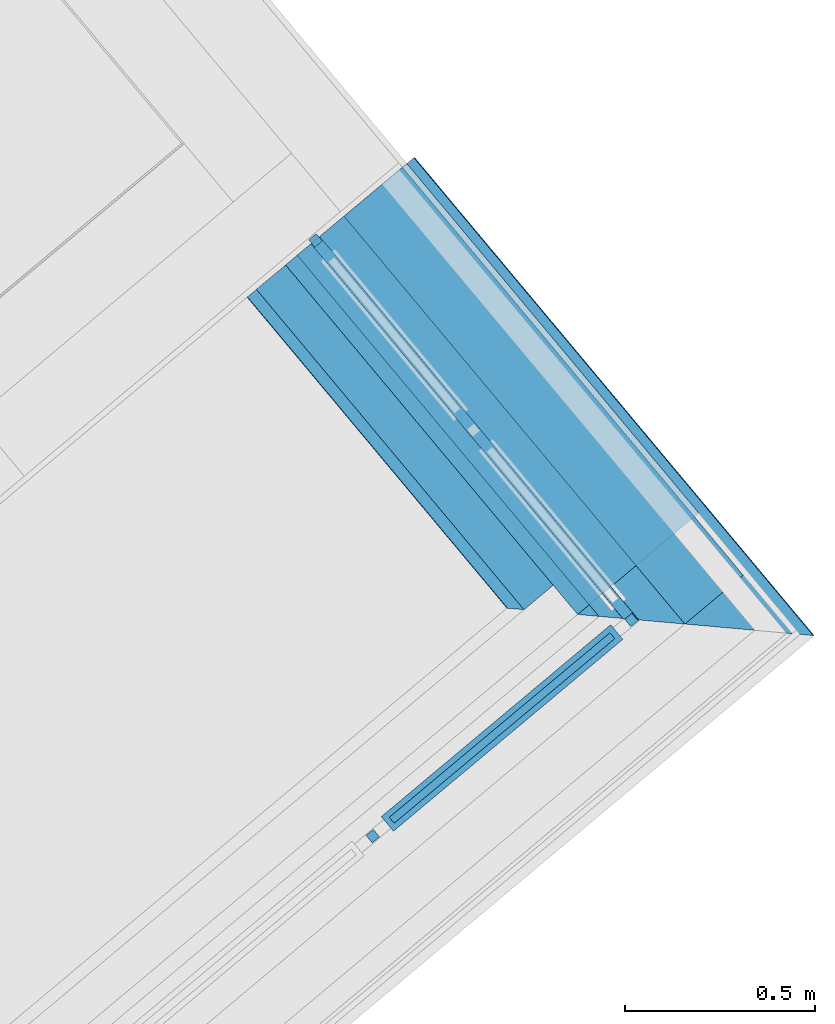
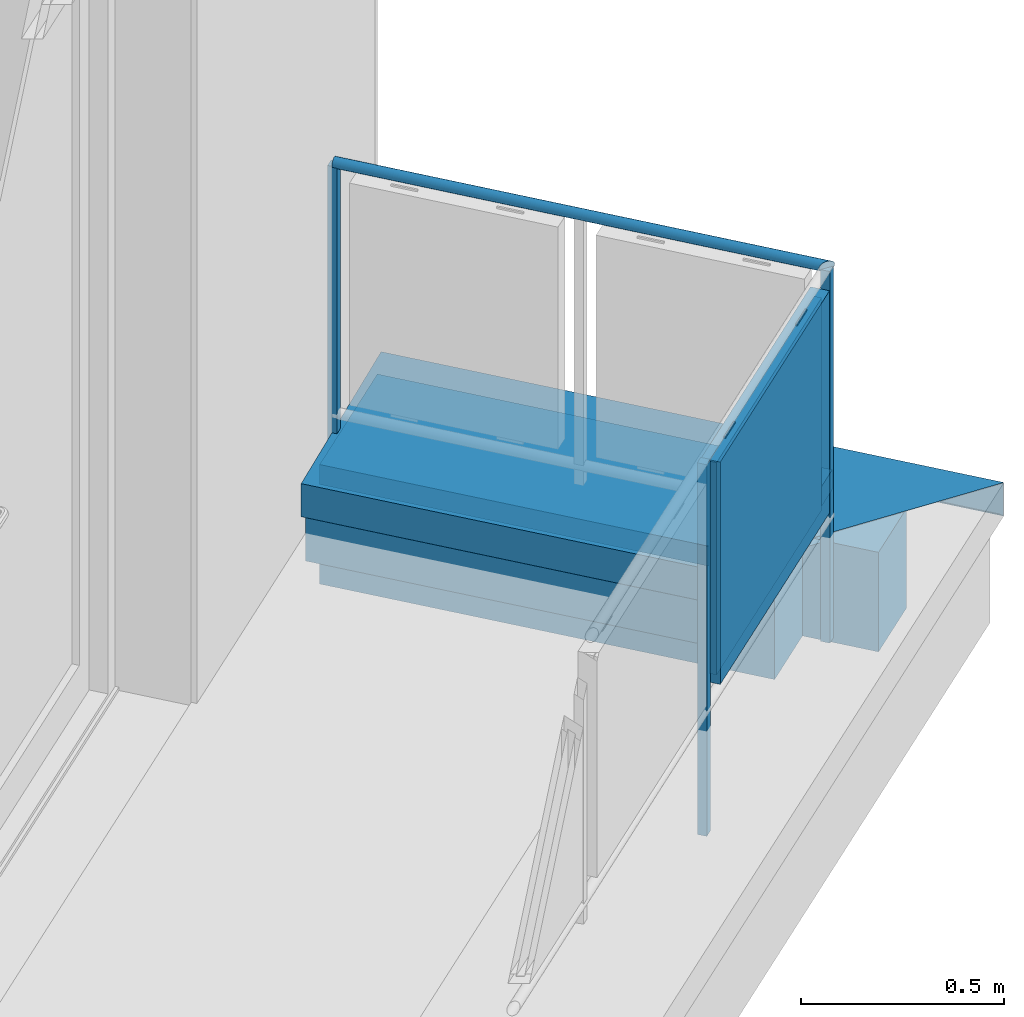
# One storey, part 37 of 50: 13 building element parts, 2 elements without a shape of their own.
"""IFC4 building model written with IfcOpenShell, lengths in metres."""

from ifc_helpers import new_model, entity, si_unit, converted_unit, derived_unit, direction, frame, origin_with_axes, place, context, subcontext, project, spatial, polygons, material, type_object, element, aggregate, save


model = new_model("IFC4")

# Units and contexts
model_context = context("Model", 3, precision=1e-05, world=origin_with_axes(), true_north=direction((0.0, 1.0)))
body_context = subcontext(model_context, "Body", "Model", "MODEL_VIEW")
ifc_project = project(units=[si_unit("LENGTHUNIT", "METRE"), si_unit("AREAUNIT", "SQUARE_METRE"), si_unit("VOLUMEUNIT", "CUBIC_METRE"), converted_unit("PLANEANGLEUNIT", "DEGREE", entity("IfcPlaneAngleMeasure", 0.0174532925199), si_unit("PLANEANGLEUNIT", "RADIAN"), dimensions=[0, 0, 0, 0, 0, 0, 0]), converted_unit("TIMEUNIT", "Year", entity("IfcTimeMeasure", 31556926.0), si_unit("TIMEUNIT", "SECOND"), dimensions=[0, 0, 1, 0, 0, 0, 0]), si_unit("MASSUNIT", "GRAM", prefix="KILO"), si_unit("THERMODYNAMICTEMPERATUREUNIT", "DEGREE_CELSIUS"), si_unit("LUMINOUSINTENSITYUNIT", "LUMEN"), si_unit("ENERGYUNIT", "JOULE", prefix="MEGA"), derived_unit("THERMALCONDUCTANCEUNIT", [(si_unit("POWERUNIT", "WATT"), 1), (si_unit("LENGTHUNIT", "METRE"), -1), (si_unit("THERMODYNAMICTEMPERATUREUNIT", "KELVIN"), -1)]), derived_unit("SPECIFICHEATCAPACITYUNIT", [(si_unit("ENERGYUNIT", "JOULE"), 1), (si_unit("MASSUNIT", "GRAM", prefix="KILO"), -1), (si_unit("THERMODYNAMICTEMPERATUREUNIT", "KELVIN"), -1)]), derived_unit("MASSDENSITYUNIT", [(si_unit("MASSUNIT", "GRAM", prefix="KILO"), 1), (si_unit("VOLUMEUNIT", "CUBIC_METRE"), -1)])], contexts=[model_context])

# Site, building, storey
site_placement = place(None, frame((-0.00153261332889, -0.00661245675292, 0.0), z_axis=(0.0, 0.0, 1.0), x_axis=(1.0, 0.0, 0.0)))
site = spatial("IfcSite", under=ifc_project, at=site_placement, Name="Gelände", CompositionType="ELEMENT")
building_placement = place(site_placement, origin_with_axes())
building = spatial("IfcBuilding", under=site, at=building_placement, Name="Gebäude", CompositionType="ELEMENT")
storey_placement = place(building_placement, frame((0.0, 0.0, 8.66), z_axis=(0.0, 0.0, 1.0), x_axis=(1.0, 0.0, 0.0)))
storey = spatial("IfcBuildingStorey", under=building, at=storey_placement, Name="DG2", CompositionType="ELEMENT", Elevation=8.66)

# Wall, building element parts
wall_type = type_object("IfcWallType", Name="Bauteil - Attika Terrasse 1.DG 574 x 410", PredefinedType="NOTDEFINED")
wall_placement = place(storey_placement, frame((13.0950046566, 20.3058232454, -0.2), z_axis=(0.0, 0.0, 1.0), x_axis=(-0.641209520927, 0.767365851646, 0.0)))
wall = element("IfcWall", 1, at=wall_placement, inside=storey, type_object=wall_type, Name="Wand-005", PredefinedType="NOTDEFINED")
ifc_material_1 = material(Name="Stahl")
building_element_part_1_placement = place(wall_placement, origin_with_axes())
building_element_part_1 = element("IfcBuildingElementPart", 2, at=building_element_part_1_placement, material=ifc_material_1, Name="Stahl", PredefinedType="NOTDEFINED", context=body_context, shape_type="Tessellation", body=[
    polygons([(0.331835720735, 0.332051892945, 0.498822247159), (0.331835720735, 0.332051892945, 0.49100648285), (0.331836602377, 0.330698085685, 0.491006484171), (0.331836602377, 0.330698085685, 0.498822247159), (0.331835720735, 0.332051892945, 0.489652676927), (0.331835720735, 0.332051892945, 0.499999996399), (0.331835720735, 0.332051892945, 0.50905023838), (0.331835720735, 0.332051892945, 0.511361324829), (0.331835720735, 0.332051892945, 0.519224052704), (0.331835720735, 0.332051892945, 0.559999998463), (0.331835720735, 0.332051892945, 0.567947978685), (0.331835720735, 0.332051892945, 0.573880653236), (0.331835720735, 0.332051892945, 0.575979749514), (0.331835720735, 0.332051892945, 0.584015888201), (0.331835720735, 0.332051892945, 0.586106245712), (0.331835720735, 0.332051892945, 0.587938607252), (0.331835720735, 0.332051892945, 0.589243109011), (1.39632238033, 0.332051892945, 0.589243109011), (1.39632238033, 0.332051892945, 0.489652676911), (0.331836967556, 0.330137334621, 0.489652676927), (0.331837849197, 0.328783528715, 0.491006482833), (1.39632238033, 0.330698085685, 0.491006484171), (1.39632238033, 0.330698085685, 0.587937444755), (0.331836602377, 0.330698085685, 0.587937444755), (0.331836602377, 0.330698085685, 0.586106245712), (0.331836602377, 0.330698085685, 0.584015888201), (0.331836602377, 0.330698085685, 0.575979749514), (0.331836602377, 0.330698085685, 0.573880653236), (0.331836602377, 0.330698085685, 0.567947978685), (0.331836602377, 0.330698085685, 0.559999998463), (0.331836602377, 0.330698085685, 0.519224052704), (0.331836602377, 0.330698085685, 0.511361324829), (0.331836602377, 0.330698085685, 0.50905023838), (0.331836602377, 0.330698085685, 0.499999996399), (0.33183662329, 0.330665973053, 0.587938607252), (0.331860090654, 0.294630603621, 0.589243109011), (-0.201718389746, -0.201849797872, 0.608570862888), (-0.202598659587, -0.202730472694, 0.608602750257), (-0.241342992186, -0.241500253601, 0.610006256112), (1.39632238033, -0.241500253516, 0.610006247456), (1.39632238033, 0.331094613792, 0.488695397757), (1.39632238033, -0.241500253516, 0.510007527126), (1.39632238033, -0.240542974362, 0.509050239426), (1.39632238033, -0.231373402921, 0.518219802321), (1.39632238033, -0.232283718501, 0.519224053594), (1.39632238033, -0.240146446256, 0.51136132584), (1.39632238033, -0.240152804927, 0.608602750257), (1.39632238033, -0.239276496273, 0.608570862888), (1.39632238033, 0.32288233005, 0.498822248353), (1.39632238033, 0.321878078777, 0.497911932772), (0.330879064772, 0.331094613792, 0.488695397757), (0.323583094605, 0.32187807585, 0.497911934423), (0.330484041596, 0.328783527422, 0.49100648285), (0.330482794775, 0.33069808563, 0.49100648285), (-0.201694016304, -0.239276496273, 0.608570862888), (0.322672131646, 0.322882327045, 0.498822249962), (-0.202574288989, -0.240152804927, 0.608602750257), (-0.202573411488, -0.241500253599, 0.608602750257), (-0.239995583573, -0.241500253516, 0.608602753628), (-0.239995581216, -0.241500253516, 0.608570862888), (-0.239994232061, -0.241500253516, 0.587938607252), (-0.239994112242, -0.241500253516, 0.586106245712), (-0.239993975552, -0.241500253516, 0.584015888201), (-0.239993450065, -0.241500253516, 0.575979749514), (-0.239993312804, -0.241500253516, 0.573880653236), (-0.239992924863, -0.241500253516, 0.567947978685), (-0.23999240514, -0.241500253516, 0.560000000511), (-0.239989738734, -0.241500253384, 0.519224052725), (-0.239989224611, -0.241500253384, 0.511361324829), (-0.238074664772, -0.241500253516, 0.511361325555), (-0.239428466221, -0.241500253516, 0.510007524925), (-0.240386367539, -0.240542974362, 0.50905023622), (-0.238076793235, -0.238231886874, 0.511361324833), (-0.231222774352, -0.23137340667, 0.518219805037), (-0.232132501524, -0.23228372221, 0.519224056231), (-0.231221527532, -0.233287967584, 0.518219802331), (-0.23807554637, -0.24014644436, 0.511361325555), (-0.239990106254, -0.24014644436, 0.511361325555), (-0.239990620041, -0.240146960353, 0.519224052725), (-0.239993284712, -0.240149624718, 0.560000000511), (-0.239993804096, -0.240150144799, 0.567947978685), (-0.239994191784, -0.240150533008, 0.573880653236), (-0.239994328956, -0.240150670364, 0.575979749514), (-0.239994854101, -0.240151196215, 0.584015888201), (-0.239994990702, -0.240151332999, 0.586106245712), (-0.239995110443, -0.240151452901, 0.587938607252), (-0.239996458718, -0.240152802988, 0.608570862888), (-0.239996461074, -0.240152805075, 0.608602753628)], [[[1, 2, 3, 4]], [[5, 2, 1, 6, 7, 8, 9, 10, 11, 12, 13, 14, 15, 16, 17, 18, 19]], [[2, 5, 20, 21, 3]], [[22, 23, 24, 25, 26, 27, 28, 29, 30, 31, 32, 33, 34, 4, 3]], [[1, 4, 34, 6]], [[7, 6, 34, 33]], [[8, 7, 33, 32]], [[9, 8, 32, 31]], [[10, 9, 31, 30]], [[11, 10, 30, 29]], [[12, 11, 29, 28]], [[13, 12, 28, 27]], [[14, 13, 27, 26]], [[15, 14, 26, 25]], [[16, 15, 25, 24]], [[17, 16, 24, 35, 36]], [[18, 17, 37, 38, 39, 40]], [[41, 19, 18, 40, 42, 43, 44, 45, 46, 47, 48, 23, 22, 49, 50]], [[5, 19, 41, 51]], [[5, 51, 20]], [[41, 50, 52, 53, 21, 20, 51]], [[53, 54, 3, 21]], [[24, 23, 48, 55, 36, 35]], [[49, 22, 3, 54, 56]], [[37, 17, 36, 55]], [[38, 37, 55, 57]], [[38, 57, 58, 39]], [[42, 40, 39, 58, 59, 60, 61, 62, 63, 64, 65, 66, 67, 68, 69, 70, 71]], [[43, 42, 71, 72]], [[44, 43, 72, 73, 74]], [[45, 44, 74, 75]], [[46, 45, 75, 76, 77]], [[47, 46, 77, 78, 79, 80, 81, 82, 83, 84, 85, 86, 87, 88, 57]], [[48, 47, 57, 55]], [[50, 49, 56, 52]], [[56, 54, 53, 52]], [[58, 57, 88, 59]], [[87, 60, 59, 88]], [[86, 61, 60, 87]], [[85, 62, 61, 86]], [[84, 63, 62, 85]], [[84, 83, 64, 63]], [[83, 82, 65, 64]], [[82, 81, 66, 65]], [[81, 80, 67, 66]], [[80, 79, 68, 67]], [[79, 78, 69, 68]], [[78, 77, 70, 69]], [[77, 73, 72, 71, 70]], [[73, 77, 76, 74]], [[75, 74, 76]]], closed=True),
])
ifc_material_2 = material(Name="Holzwerkstoff")
building_element_part_2_placement = place(wall_placement, origin_with_axes())
building_element_part_2 = element("IfcBuildingElementPart", 3, at=building_element_part_2_placement, material=ifc_material_2, Name="Holzwerkstoff", PredefinedType="NOTDEFINED", context=body_context, shape_type="Tessellation", body=[
    polygons([(1.39632238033, 0.329999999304, 0.567947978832), (1.39632238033, 0.160110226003, 0.573880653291), (0.330102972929, 0.160110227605, 0.573880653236), (0.329785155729, 0.329999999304, 0.567947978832), (1.39632238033, 0.330698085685, 0.587938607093), (1.39632238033, -0.239276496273, 0.608570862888), (1.39632238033, -0.239999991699, 0.587852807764), (1.39632238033, -0.189984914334, 0.586106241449), (1.39632238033, -0.130124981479, 0.584015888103), (1.39632238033, 0.100000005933, 0.575979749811), (0.330215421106, 0.100000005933, 0.575979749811), (0.329992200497, 0.330207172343, 0.573880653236), (0.330065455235, 0.330280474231, 0.57597974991), (0.33034590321, 0.330561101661, 0.584015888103), (0.330418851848, 0.330634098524, 0.586106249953), (0.330482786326, 0.330698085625, 0.587938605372), (-0.239120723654, -0.239276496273, 0.608570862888), (0.330854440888, -0.23999699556, 0.587938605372), (0.330851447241, -0.239999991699, 0.587852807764), (0.330757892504, -0.189984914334, 0.586106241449), (0.330645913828, -0.130124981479, 0.584015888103)], [[[1, 2, 3, 4]], [[1, 5, 6, 7, 8, 9, 10, 2]], [[2, 10, 11, 3]], [[12, 4, 3]], [[5, 1, 4, 12, 13, 14, 15, 16]], [[5, 16, 17, 6]], [[7, 6, 17, 18, 19]], [[8, 7, 19, 20]], [[9, 8, 20, 21]], [[10, 9, 21, 11]], [[13, 12, 3, 11]], [[14, 13, 11, 21]], [[15, 14, 21, 20]], [[16, 15, 20, 19, 18]], [[17, 16, 18]]], closed=True),
])
ifc_material_3 = material(Name="EPS 1")
building_element_part_3_placement = place(wall_placement, origin_with_axes())
building_element_part_3 = element("IfcBuildingElementPart", 4, at=building_element_part_3_placement, material=ifc_material_3, Name="EPS 1", PredefinedType="NOTDEFINED", context=body_context, shape_type="Tessellation", body=[
    polygons([(0.299804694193, 0.3, 0.560000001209), (0.299869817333, 0.2, 0.560000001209), (1.39632238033, 0.2, 0.560000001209), (1.39632238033, 0.3, 0.560000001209), (0.299869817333, 0.2, 0.519224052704), (0.299804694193, 0.3, 0.519224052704), (0.299869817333, 0.2, 0.511361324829), (0.299869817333, 0.2, 0.50905023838), (0.299869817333, 0.2, 0.499999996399), (0.299869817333, 0.2, 0.498822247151), (0.299869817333, 0.2, 0.49100648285), (0.299869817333, 0.2, 0.488695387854), (0.299869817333, 0.2, 0.335), (1.39632238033, 0.2, 0.335), (1.39632238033, 0.3, 0.335), (0.299804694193, 0.3, 0.335), (0.299804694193, 0.3, 0.488695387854), (0.299804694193, 0.3, 0.49100648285), (0.299804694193, 0.3, 0.498822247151), (0.299804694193, 0.3, 0.499999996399), (0.299804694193, 0.3, 0.50905023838), (0.299804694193, 0.3, 0.511361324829)], [[[1, 2, 3, 4]], [[5, 2, 1, 6]], [[2, 5, 7, 8, 9, 10, 11, 12, 13, 14, 3]], [[3, 14, 15, 4]], [[6, 1, 4, 15, 16, 17, 18, 19, 20, 21, 22]], [[5, 6, 22, 7]], [[7, 22, 21, 8]], [[20, 9, 8, 21]], [[19, 10, 9, 20]], [[10, 19, 18, 11]], [[11, 18, 17, 12]], [[12, 17, 16, 13]], [[13, 16, 15, 14]]], closed=True),
])
ifc_material_4 = material(Name="Vollholz")
building_element_part_4_placement = place(wall_placement, origin_with_axes())
building_element_part_4 = element("IfcBuildingElementPart", 5, at=building_element_part_4_placement, material=ifc_material_4, Name="Vollholz", PredefinedType="NOTDEFINED", context=body_context, shape_type="Tessellation", body=[
    polygons([(0.159958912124, 0.160063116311, 0.567947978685), (0.159895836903, 0.16, 0.560000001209), (0.159934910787, 0.1, 0.560000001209), (0.159998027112, 0.1, 0.567947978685), (0.160005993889, 0.160110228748, 0.573880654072), (1.39632238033, 0.160110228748, 0.573880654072), (1.39632238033, 0.16, 0.560000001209), (1.39632238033, 0.1, 0.560000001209), (1.39632238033, 0.1, 0.575979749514), (0.0999348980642, 0.1, 0.575979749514), (0.160045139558, 0.1, 0.573880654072)], [[[1, 2, 3, 4]], [[5, 6, 7, 2, 1]], [[7, 8, 3, 2]], [[8, 9, 10, 11, 4, 3]], [[5, 1, 4, 11]], [[6, 5, 10, 9]], [[7, 6, 9, 8]], [[5, 11, 10]]], closed=True),
])
ifc_material_5 = material(Name="Stahlbeton")
building_element_part_5_placement = place(wall_placement, origin_with_axes())
building_element_part_5 = element("IfcBuildingElementPart", 6, at=building_element_part_5_placement, material=ifc_material_5, Name="Stahlbeton", PredefinedType="NOTDEFINED", context=body_context, shape_type="Tessellation", body=[
    polygons([(0.199869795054, 0.199999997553, 0.500000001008), (0.200000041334, 4.57443860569e-10, 0.500000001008), (1.39632238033, 1.8283543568e-09, 0.500000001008), (1.39632238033, 0.199999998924, 0.500000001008), (0.200000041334, 0.0, 0.498822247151), (0.199869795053, 0.199999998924, 0.498822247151), (0.200000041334, 0.0, 0.49100648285), (0.200000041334, 0.0, 0.488695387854), (0.200000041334, 0.0, 0.335), (0.200000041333, 1.1539533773e-09, 0.2), (1.39632238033, 1.8283543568e-09, 0.2), (1.39632238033, 0.199999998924, 0.2), (1.39632238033, 0.199999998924, 0.335000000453), (0.199869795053, 0.199999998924, 0.335), (0.199869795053, 0.199999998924, 0.488695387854), (0.199869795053, 0.199999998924, 0.49100648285), (0.199869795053, 0.199999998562, 0.2)], [[[1, 2, 3, 4]], [[5, 2, 1, 6]], [[2, 5, 7, 8, 9, 10, 11, 3]], [[11, 12, 13, 4, 3]], [[6, 1, 4, 13, 14, 15, 16]], [[5, 6, 16, 7]], [[16, 15, 8, 7]], [[14, 9, 8, 15]], [[10, 9, 14, 17]], [[10, 17, 12, 11]], [[17, 14, 13, 12]]], closed=True),
])
building_element_part_6_placement = place(wall_placement, origin_with_axes())
building_element_part_6 = element("IfcBuildingElementPart", 7, at=building_element_part_6_placement, material=ifc_material_3, Name="EPS 1", PredefinedType="NOTDEFINED", context=body_context, shape_type="Tessellation", body=[
    polygons([(-2.38710384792e-10, -1.8400143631e-09, 0.499999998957), (0.000130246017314, -0.199999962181, 0.499999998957), (1.39632238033, -0.19999996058, 0.499999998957), (1.39632238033, -2.39911202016e-10, 0.499999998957), (0.000130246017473, -0.199999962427, 0.498822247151), (-2.39163355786e-10, -1.14826192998e-09, 0.498822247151), (0.000130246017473, -0.199999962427, 0.49100648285), (0.000130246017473, -0.199999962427, 0.488695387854), (0.000130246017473, -0.199999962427, 0.335), (0.00013024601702, -0.199999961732, 0.2), (1.39632238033, -0.19999996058, 0.2), (1.39632238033, -2.39911202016e-10, 0.2), (-2.39243291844e-10, -1.02706465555e-09, 0.2), (-2.39163355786e-10, -1.14826192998e-09, 0.335), (-2.39163355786e-10, -1.14826192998e-09, 0.488695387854), (-2.39163355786e-10, -1.14826192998e-09, 0.49100648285)], [[[1, 2, 3, 4]], [[5, 2, 1, 6]], [[2, 5, 7, 8, 9, 10, 11, 3]], [[11, 12, 4, 3]], [[6, 1, 4, 12, 13, 14, 15, 16]], [[5, 6, 16, 7]], [[7, 16, 15, 8]], [[8, 15, 14, 9]], [[9, 14, 13, 10]], [[10, 13, 12, 11]]], closed=True),
])
ifc_material_6 = material(Name="Brettschichtholz")
building_element_part_7_placement = place(wall_placement, origin_with_axes())
building_element_part_7 = element("IfcBuildingElementPart", 8, at=building_element_part_7_placement, material=ifc_material_6, Name="Brettschichtholz", PredefinedType="NOTDEFINED", context=body_context, shape_type="Tessellation", body=[
    polygons([(0.200123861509, -0.190124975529, 0.559999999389), (0.200140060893, -0.214999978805, 0.559999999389), (1.39632238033, -0.214999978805, 0.559999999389), (1.39632238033, -0.190124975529, 0.559999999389), (0.200140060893, -0.214999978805, 0.519224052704), (0.200084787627, -0.130124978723, 0.559999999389), (0.199934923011, 0.100000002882, 0.559999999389), (0.199895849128, 0.159999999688, 0.559999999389), (0.199869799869, 0.200000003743, 0.559999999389), (0.199869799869, 0.200000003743, 0.519224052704), (0.200140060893, -0.214999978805, 0.511361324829), (0.200140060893, -0.214999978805, 0.50905023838), (0.200140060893, -0.214999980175, 0.500000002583), (1.39632238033, -0.214999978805, 0.499999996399), (1.39632238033, 0.200000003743, 0.500000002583), (1.39632238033, 0.200000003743, 0.559999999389), (1.39632238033, 0.159999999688, 0.559999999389), (1.39632238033, 0.100000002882, 0.559999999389), (1.39632238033, -0.130124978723, 0.559999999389), (0.19986979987, 0.200000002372, 0.500000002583), (0.199869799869, 0.200000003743, 0.50905023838), (0.199869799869, 0.200000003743, 0.511361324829)], [[[1, 2, 3, 4]], [[5, 2, 1, 6, 7, 8, 9, 10]], [[2, 5, 11, 12, 13, 14, 3]], [[3, 14, 15, 16, 17, 18, 19, 4]], [[6, 1, 4, 19]], [[7, 6, 19, 18]], [[8, 7, 18, 17]], [[9, 8, 17, 16]], [[10, 9, 16, 15, 20, 21, 22]], [[5, 10, 22, 11]], [[22, 21, 12, 11]], [[12, 21, 20, 13]], [[20, 15, 14, 13]]], closed=True),
])
aggregate(wall, [building_element_part_1, building_element_part_2, building_element_part_3, building_element_part_4, building_element_part_5, building_element_part_6, building_element_part_7])

# Space
space_placement = place(storey_placement, frame((8.90864671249, 17.2360299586, 0.22), z_axis=(0.0, 0.0, 1.0), x_axis=(0.766948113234, 0.641709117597, 0.0)))
space = spatial("IfcSpace", under=storey, at=space_placement, CompositionType="ELEMENT", PredefinedType="NOTDEFINED")

# Railing, building element parts
railing_type = type_object("IfcRailingType", Name="Geländerart", PredefinedType="NOTDEFINED")
railing_placement = place(space_placement, frame((-0.182063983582, 1.04564583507, 0.16), z_axis=(0.0, 0.0, 1.0), x_axis=(0.766948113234, -0.641709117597, 0.0)))
railing = element("IfcRailing", 9, at=railing_placement, inside=space, type_object=railing_type, Name="Geländer - 001", PredefinedType="NOTDEFINED")
ifc_material_7 = material(Name="Aluminium")
building_element_part_8_placement = place(railing_placement, origin_with_axes())
building_element_part_8 = element("IfcBuildingElementPart", 10, at=building_element_part_8_placement, material=ifc_material_7, Name="Aluminium", PredefinedType="NOTDEFINED", context=body_context, shape_type="Tessellation", body=[
    polygons([(4.87392007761, 2.39415632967, -0.3), (4.85787906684, 2.41333146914, -0.3), (4.85787906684, 2.41333146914, 0.82), (4.87392007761, 2.39415632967, 0.82), (4.85474493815, 2.3781153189, -0.3), (4.83870392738, 2.39729045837, -0.3), (4.83870392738, 2.39729045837, 0.82), (4.85474493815, 2.3781153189, 0.82)], [[[1, 2, 3, 4]], [[1, 5, 6, 2]], [[2, 6, 7, 3]], [[4, 3, 7, 8]], [[5, 1, 4, 8]], [[6, 5, 8, 7]]], closed=True),
])
building_element_part_9_placement = place(railing_placement, origin_with_axes())
building_element_part_9 = element("IfcBuildingElementPart", 11, at=building_element_part_9_placement, material=ifc_material_7, Name="Aluminium", PredefinedType="NOTDEFINED", context=body_context, shape_type="Tessellation", body=[
    polygons([(4.02846962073, 3.40999577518, -0.3), (4.00925363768, 3.39400371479, -0.3), (4.00925363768, 3.39400371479, 0.82), (4.02846962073, 3.40999577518, 0.82), (4.04446168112, 3.39077979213, -0.3), (4.02524569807, 3.37478773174, -0.3), (4.02524569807, 3.37478773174, 0.82), (4.04446168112, 3.39077979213, 0.82)], [[[1, 2, 3, 4]], [[1, 5, 6, 2]], [[2, 6, 7, 3]], [[4, 3, 7, 8]], [[5, 1, 4, 8]], [[6, 5, 8, 7]]], closed=True),
])
building_element_part_10_placement = place(railing_placement, origin_with_axes())
building_element_part_10 = element("IfcBuildingElementPart", 12, at=building_element_part_10_placement, material=ifc_material_7, Name="Aluminium", PredefinedType="NOTDEFINED", context=body_context, shape_type="Tessellation", body=[
    polygons([(4.19487765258, 1.82610169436, -0.3), (4.17883664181, 1.84527683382, -0.3), (4.17883664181, 1.84527683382, 0.82), (4.19487765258, 1.82610169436, 0.82), (4.17570251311, 1.81006068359, -0.3), (4.15966150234, 1.82923582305, -0.3), (4.15966150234, 1.82923582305, 0.82), (4.17570251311, 1.81006068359, 0.82)], [[[1, 2, 3, 4]], [[1, 5, 6, 2]], [[2, 6, 7, 3]], [[4, 3, 7, 8]], [[5, 1, 4, 8]], [[6, 5, 8, 7]]], closed=True),
])
ifc_material_8 = material(Name="Profilit")
building_element_part_11_placement = place(railing_placement, origin_with_axes())
building_element_part_11 = element("IfcBuildingElementPart", 13, at=building_element_part_11_placement, material=ifc_material_8, Name="Profilit", PredefinedType="NOTDEFINED", context=body_context, shape_type="Tessellation", body=[
    polygons([(4.80004023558, 2.3616868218, 0.135), (4.22070853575, 1.8770454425, 0.135), (4.22070853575, 1.8770454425, 0.775), (4.80004023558, 2.3616868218, 0.775), (4.23354134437, 1.86170533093, 0.135), (4.8128730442, 2.34634671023, 0.135), (4.23354134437, 1.86170533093, 0.775), (4.8128730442, 2.34634671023, 0.775)], [[[1, 2, 3, 4]], [[5, 2, 1, 6]], [[7, 3, 2, 5]], [[4, 3, 7, 8]], [[1, 4, 8, 6]], [[7, 5, 6, 8]]], closed=True),
])
building_element_part_12_placement = place(railing_placement, origin_with_axes())
building_element_part_12 = element("IfcBuildingElementPart", 14, at=building_element_part_12_placement, material=ifc_material_7, Name="Aluminium", PredefinedType="NOTDEFINED", context=body_context, shape_type="Tessellation", body=[
    polygons([(4.29071631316, 1.92583233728, 0.12), (4.34440670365, 1.97074716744, 0.12), (4.34440670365, 1.97074716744, 0.095), (4.29071631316, 1.92583233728, 0.095), (4.29392451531, 1.92199730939, 0.12), (4.34761490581, 1.96691213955, 0.12), (4.34761490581, 1.96691213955, 0.095), (4.29392451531, 1.92199730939, 0.095)], [[[1, 2, 3, 4]], [[5, 6, 2, 1]], [[2, 6, 7, 3]], [[4, 3, 7, 8]], [[1, 4, 8, 5]], [[8, 7, 6, 5]]], closed=True),
    polygons([(4.68596667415, 2.25648001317, 0.12), (4.73965706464, 2.30139484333, 0.12), (4.73965706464, 2.30139484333, 0.095), (4.68596667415, 2.25648001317, 0.095), (4.6891748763, 2.25264498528, 0.12), (4.7428652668, 2.29755981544, 0.12), (4.7428652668, 2.29755981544, 0.095), (4.6891748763, 2.25264498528, 0.095)], [[[1, 2, 3, 4]], [[5, 6, 2, 1]], [[2, 6, 7, 3]], [[4, 3, 7, 8]], [[1, 4, 8, 5]], [[8, 7, 6, 5]]], closed=True),
    polygons([(4.73965706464, 2.30139484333, 0.79), (4.68596667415, 2.25648001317, 0.79), (4.68596667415, 2.25648001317, 0.795), (4.73965706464, 2.30139484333, 0.795), (4.7428652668, 2.29755981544, 0.79), (4.6891748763, 2.25264498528, 0.79), (4.6891748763, 2.25264498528, 0.795), (4.7428652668, 2.29755981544, 0.795)], [[[1, 2, 3, 4]], [[5, 6, 2, 1]], [[2, 6, 7, 3]], [[4, 3, 7, 8]], [[1, 4, 8, 5]], [[8, 7, 6, 5]]], closed=True),
    polygons([(4.34440670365, 1.97074716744, 0.79), (4.29071631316, 1.92583233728, 0.79), (4.29071631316, 1.92583233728, 0.795), (4.34440670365, 1.97074716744, 0.795), (4.34761490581, 1.96691213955, 0.79), (4.29392451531, 1.92199730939, 0.79), (4.29392451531, 1.92199730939, 0.795), (4.34761490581, 1.96691213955, 0.795)], [[[1, 2, 3, 4]], [[5, 6, 2, 1]], [[2, 6, 7, 3]], [[4, 3, 7, 8]], [[1, 4, 8, 5]], [[8, 7, 6, 5]]], closed=True),
    polygons([(4.23166086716, 1.84057564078, 0.12), (4.19957884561, 1.87892591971, 0.12), (4.8019207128, 2.38281651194, 0.12), (4.83400273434, 2.34446623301, 0.12), (4.24700097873, 1.8534084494, 0.14), (4.23737637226, 1.86491353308, 0.14), (4.23354134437, 1.86170533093, 0.135), (4.22070853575, 1.8770454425, 0.135), (4.22454356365, 1.88025364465, 0.14), (4.21491895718, 1.89175872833, 0.14), (4.78658060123, 2.36998370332, 0.14), (4.78658060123, 2.36998370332, 0.77), (4.21491895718, 1.89175872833, 0.77), (4.21491895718, 1.89175872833, 0.14), (4.19957884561, 1.87892591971, 0.12), (4.19957884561, 1.87892591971, 0.79), (4.8019207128, 2.38281651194, 0.79), (4.83400273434, 2.34446623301, 0.79), (4.23166086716, 1.84057564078, 0.79), (4.23166086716, 1.84057564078, 0.12), (4.24700097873, 1.8534084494, 0.14), (4.24700097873, 1.8534084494, 0.77), (4.81866262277, 2.3316334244, 0.77), (4.81866262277, 2.3316334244, 0.14), (4.80903801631, 2.34313850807, 0.14), (4.80903801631, 2.34313850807, 0.77), (4.23737637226, 1.86491353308, 0.77), (4.23737637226, 1.86491353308, 0.14), (4.23354134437, 1.86170533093, 0.135), (4.23354134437, 1.86170533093, 0.775), (4.8128730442, 2.34634671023, 0.775), (4.8128730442, 2.34634671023, 0.135), (4.80004023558, 2.3616868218, 0.135), (4.80004023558, 2.3616868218, 0.775), (4.22070853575, 1.8770454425, 0.775), (4.22070853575, 1.8770454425, 0.135), (4.22454356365, 1.88025364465, 0.14), (4.22454356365, 1.88025364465, 0.77), (4.79620520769, 2.35847861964, 0.77), (4.79620520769, 2.35847861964, 0.14)], [[[1, 2, 3, 4]], [[1, 5, 6, 7, 8, 9, 10, 2]], [[2, 10, 11, 12, 13, 14, 15, 16, 17, 3]], [[4, 3, 17, 18]], [[5, 1, 4, 18, 19, 20, 21, 22, 23, 24]], [[6, 5, 24, 25]], [[7, 6, 25, 26, 27, 28, 29, 30, 31, 32]], [[8, 7, 32, 33]], [[9, 8, 33, 34, 35, 36, 37, 38, 39, 40]], [[10, 9, 40, 11]], [[11, 40, 39, 12]], [[12, 39, 38, 13]], [[13, 38, 37, 14]], [[20, 15, 14, 37, 36, 29, 28, 21]], [[19, 16, 15, 20]], [[18, 17, 16, 19]], [[27, 22, 21, 28]], [[26, 23, 22, 27]], [[25, 24, 23, 26]], [[35, 30, 29, 36]], [[34, 31, 30, 35]], [[33, 32, 31, 34]]], closed=True),
])
building_element_part_13_placement = place(railing_placement, origin_with_axes())
building_element_part_13 = element("IfcBuildingElementPart", 15, at=building_element_part_13_placement, material=ifc_material_7, Name="Aluminium", PredefinedType="NOTDEFINED", context=body_context, shape_type="Tessellation", body=[
    polygons([(4.83521161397, 2.39762838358, 0.825), (4.83553217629, 2.39759944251, 0.827604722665), (4.01550322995, 3.38294229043, 0.827604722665), (4.01532806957, 3.38279651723, 0.825), (4.83553217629, 2.39759944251, 0.822395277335), (4.83648412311, 2.39751349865, 0.81986969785), (4.83803853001, 2.39737316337, 0.8175), (4.84014816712, 2.39718270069, 0.815358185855), (4.84274893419, 2.3969478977, 0.813509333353), (4.84576180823, 2.3966758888, 0.812009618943), (4.84909524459, 2.39637493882, 0.810904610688), (4.85264795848, 2.39605419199, 0.810227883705), (4.85631200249, 2.39572339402, 0.81), (4.85997604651, 2.39539259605, 0.810227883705), (4.8635287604, 2.39507184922, 0.810904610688), (4.86686219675, 2.39477089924, 0.812009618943), (4.86987507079, 2.39449889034, 0.813509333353), (4.87247583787, 2.39426408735, 0.815358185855), (4.87458547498, 2.39407362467, 0.8175), (4.87613988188, 2.39393328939, 0.81986969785), (4.8770918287, 2.39384734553, 0.822395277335), (4.87741239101, 2.39381840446, 0.825), (4.8770918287, 2.39384734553, 0.827604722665), (4.87613988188, 2.39393328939, 0.83013030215), (4.87458547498, 2.39407362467, 0.8325), (4.87247583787, 2.39426408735, 0.834641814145), (4.86987507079, 2.39449889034, 0.836490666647), (4.86686219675, 2.39477089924, 0.837990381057), (4.8635287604, 2.39507184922, 0.839095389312), (4.85997604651, 2.39539259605, 0.839772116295), (4.85631200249, 2.39572339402, 0.84), (4.85264795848, 2.39605419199, 0.839772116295), (4.84909524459, 2.39637493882, 0.839095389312), (4.84576180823, 2.3966758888, 0.837990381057), (4.84274893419, 2.3969478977, 0.836490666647), (4.84014816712, 2.39718270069, 0.834641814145), (4.83803853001, 2.39737316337, 0.8325), (4.83648412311, 2.39751349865, 0.83013030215), (4.01602338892, 3.38337518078, 0.83013030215), (4.01687274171, 3.38408203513, 0.8325), (4.01802548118, 3.38504137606, 0.834641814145), (4.01944658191, 3.3862240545, 0.836490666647), (4.02109286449, 3.38759413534, 0.837990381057), (4.02291430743, 3.38910998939, 0.839095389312), (4.02485556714, 3.39072555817, 0.839772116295), (4.0268576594, 3.39239175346, 0.84), (4.02885975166, 3.39405794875, 0.839772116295), (4.03080101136, 3.39567351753, 0.839095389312), (4.03262245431, 3.39718937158, 0.837990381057), (4.03426873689, 3.39855945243, 0.836490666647), (4.03568983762, 3.39974213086, 0.834641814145), (4.03684257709, 3.4007014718, 0.8325), (4.03769192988, 3.40140832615, 0.83013030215), (4.03821208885, 3.4018412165, 0.827604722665), (4.03838724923, 3.4019869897, 0.825), (4.03821208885, 3.4018412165, 0.822395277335), (4.03769192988, 3.40140832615, 0.81986969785), (4.03684257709, 3.4007014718, 0.8175), (4.03568983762, 3.39974213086, 0.815358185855), (4.03426873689, 3.39855945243, 0.813509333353), (4.03262245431, 3.39718937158, 0.812009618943), (4.03080101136, 3.39567351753, 0.810904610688), (4.02885975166, 3.39405794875, 0.810227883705), (4.0268576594, 3.39239175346, 0.81), (4.02485556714, 3.39072555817, 0.810227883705), (4.02291430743, 3.38910998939, 0.810904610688), (4.02109286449, 3.38759413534, 0.812009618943), (4.01944658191, 3.3862240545, 0.813509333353), (4.01802548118, 3.38504137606, 0.815358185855), (4.01687274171, 3.38408203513, 0.8175), (4.01602338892, 3.38337518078, 0.81986969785), (4.01550322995, 3.38294229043, 0.822395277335)], [[[1, 2, 3, 4]], [[1, 5, 6, 7, 8, 9, 10, 11, 12, 13, 14, 15, 16, 17, 18, 19, 20, 21, 22, 23, 24, 25, 26, 27, 28, 29, 30, 31, 32, 33, 34, 35, 36, 37, 38, 2]], [[2, 38, 39, 3]], [[4, 3, 39, 40, 41, 42, 43, 44, 45, 46, 47, 48, 49, 50, 51, 52, 53, 54, 55, 56, 57, 58, 59, 60, 61, 62, 63, 64, 65, 66, 67, 68, 69, 70, 71, 72]], [[5, 1, 4, 72]], [[6, 5, 72, 71]], [[7, 6, 71, 70]], [[8, 7, 70, 69]], [[9, 8, 69, 68]], [[10, 9, 68, 67]], [[11, 10, 67, 66]], [[12, 11, 66, 65]], [[13, 12, 65, 64]], [[14, 13, 64, 63]], [[15, 14, 63, 62]], [[16, 15, 62, 61]], [[17, 16, 61, 60]], [[18, 17, 60, 59]], [[19, 18, 59, 58]], [[20, 19, 58, 57]], [[21, 20, 57, 56]], [[22, 21, 56, 55]], [[23, 22, 55, 54]], [[24, 23, 54, 53]], [[25, 24, 53, 52]], [[26, 25, 52, 51]], [[27, 26, 51, 50]], [[28, 27, 50, 49]], [[29, 28, 49, 48]], [[30, 29, 48, 47]], [[31, 30, 47, 46]], [[32, 31, 46, 45]], [[33, 32, 45, 44]], [[34, 33, 44, 43]], [[35, 34, 43, 42]], [[36, 35, 42, 41]], [[37, 36, 41, 40]], [[38, 37, 40, 39]]], closed=True),
])
aggregate(railing, [building_element_part_8, building_element_part_9, building_element_part_10, building_element_part_11, building_element_part_12, building_element_part_13])

save(model, "model.ifc")
